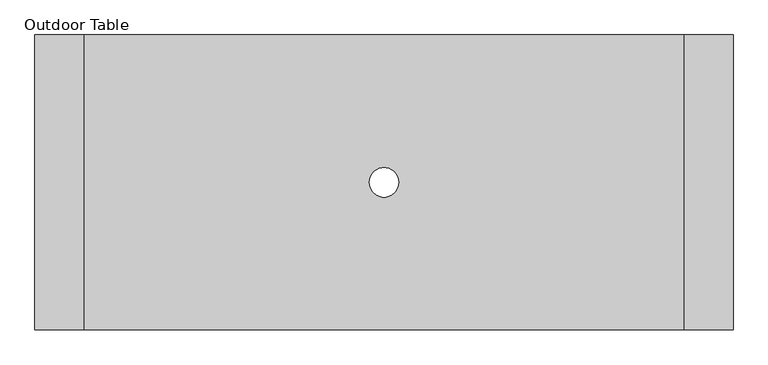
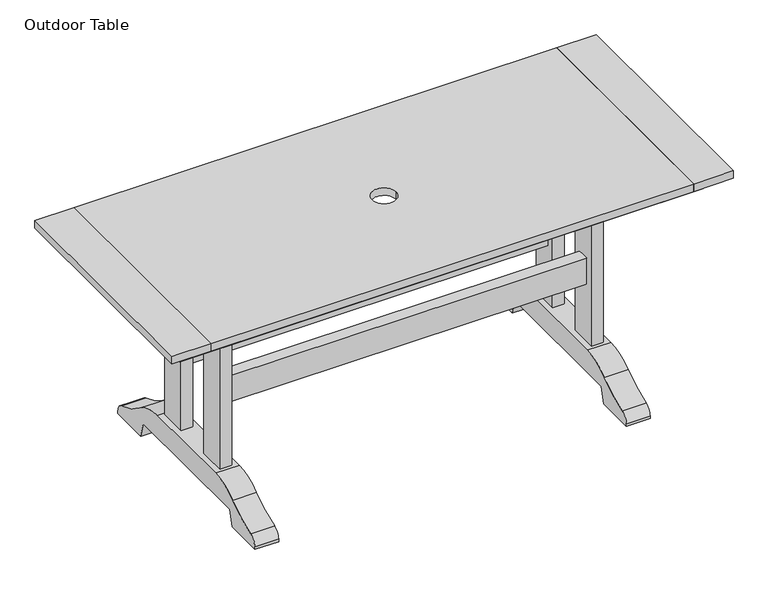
"""IFC4 building model written with IfcOpenShell, lengths in millimetres: furniture geometry."""

from ifc_helpers import new_model, si_unit, point, frame, frame_2d, origin, origin_2d, place, context, project, spatial, polyline, circle_curve, trimmed, segment, composite_curve, outline, extrude, source, transform, mapped, element, save


def outdoor_table_70c10171(model_context):
    return source(origin(), model_context, "Body", "SweptSolid", [
        extrude(outline(composite_curve([segment(polyline([(-381.0, 0.0), (-381.0, 9.0006443)]), True, "CONTINUOUS"), segment(trimmed(circle_curve(frame_2d((-349.25, 9.0006443)), 31.75), [point((-381.0, 9.0006443))], [point((-358.7294753, 39.3024932))], False, "CARTESIAN"), True, "CONTINUOUS"), segment(trimmed(circle_curve(frame_2d((-449.7324385, 330.2002428)), 304.8), [point((-358.7294753, 39.3024932))], [point((-258.1538415, 93.1334143))], True, "CARTESIAN"), True, "CONTINUOUS"), segment(trimmed(circle_curve(frame_2d((-162.3645431, -25.4)), 152.4), [point((-258.1538415, 93.1334143))], [point((-162.3645431, 127.0))], False, "CARTESIAN"), True, "CONTINUOUS"), segment(polyline([(-162.3645431, 127.0), (162.3645431, 127.0)]), True, "CONTINUOUS"), segment(trimmed(circle_curve(frame_2d((162.3645431, -25.4)), 152.4), [point((162.3645431, 127.0))], [point((258.1538415, 93.1334143))], False, "CARTESIAN"), True, "CONTINUOUS"), segment(trimmed(circle_curve(frame_2d((449.7324385, 330.2002428)), 304.8), [point((258.1538415, 93.1334143))], [point((358.7294753, 39.3024932))], True, "CARTESIAN"), True, "CONTINUOUS"), segment(trimmed(circle_curve(frame_2d((349.25, 9.0006443)), 31.75), [point((358.7294753, 39.3024932))], [point((381.0, 9.0006443))], False, "CARTESIAN"), True, "CONTINUOUS"), segment(polyline([(381.0, 9.0006443), (381.0, 0.0), (254.0, 0.0), (240.388181, 50.8), (-240.388181, 50.8), (-254.0, 0.0), (-381.0, 0.0)]), True, "CONTINUOUS")], self_intersect=False)), frame((558.8, 0.0, 0.0), z_axis=(1.0, 0.0, 0.0), x_axis=(0.0, 1.0, 0.0)), (0.0, 0.0, 1.0), 76.2),
        extrude(outline(polyline([(615.95, -63.5), (615.95, -152.4), (577.85, -152.4), (577.85, -63.5), (615.95, -63.5)])), frame((0.0, 0.0, 127.0), z_axis=(0.0, 0.0, 1.0), x_axis=(1.0, 0.0, 0.0)), (0.0, 0.0, 1.0), 596.9),
        extrude(outline(polyline([(615.95, 152.4), (615.95, 63.5), (577.85, 63.5), (577.85, 152.4), (615.95, 152.4)])), frame((0.0, 0.0, 127.0), z_axis=(0.0, 0.0, 1.0), x_axis=(1.0, 0.0, 0.0)), (0.0, 0.0, 1.0), 596.9),
        extrude(outline(composite_curve([segment(polyline([(-381.0, 0.0), (-381.0, 9.0006443)]), True, "CONTINUOUS"), segment(trimmed(circle_curve(frame_2d((-349.25, 9.0006443)), 31.75), [point((-381.0, 9.0006443))], [point((-358.7294753, 39.3024932))], False, "CARTESIAN"), True, "CONTINUOUS"), segment(trimmed(circle_curve(frame_2d((-449.7324385, 330.2002428)), 304.8), [point((-358.7294753, 39.3024932))], [point((-258.1538415, 93.1334143))], True, "CARTESIAN"), True, "CONTINUOUS"), segment(trimmed(circle_curve(frame_2d((-162.3645431, -25.4)), 152.4), [point((-258.1538415, 93.1334143))], [point((-162.3645431, 127.0))], False, "CARTESIAN"), True, "CONTINUOUS"), segment(polyline([(-162.3645431, 127.0), (162.3645431, 127.0)]), True, "CONTINUOUS"), segment(trimmed(circle_curve(frame_2d((162.3645431, -25.4)), 152.4), [point((162.3645431, 127.0))], [point((258.1538415, 93.1334143))], False, "CARTESIAN"), True, "CONTINUOUS"), segment(trimmed(circle_curve(frame_2d((449.7324385, 330.2002428)), 304.8), [point((258.1538415, 93.1334143))], [point((358.7294753, 39.3024932))], True, "CARTESIAN"), True, "CONTINUOUS"), segment(trimmed(circle_curve(frame_2d((349.25, 9.0006443)), 31.75), [point((358.7294753, 39.3024932))], [point((381.0, 9.0006443))], False, "CARTESIAN"), True, "CONTINUOUS"), segment(polyline([(381.0, 9.0006443), (381.0, 0.0), (254.0, 0.0), (240.388181, 50.8), (-240.388181, 50.8), (-254.0, 0.0), (-381.0, 0.0)]), True, "CONTINUOUS")], self_intersect=False)), frame((-635.0, 0.0, 0.0), z_axis=(1.0, 0.0, 0.0), x_axis=(0.0, 1.0, 0.0)), (0.0, 0.0, 1.0), 76.2),
        extrude(outline(polyline([(-577.85, -63.5), (-577.85, -152.4), (-615.95, -152.4), (-615.95, -63.5), (-577.85, -63.5)])), frame((0.0, 0.0, 127.0), z_axis=(0.0, 0.0, 1.0), x_axis=(1.0, 0.0, 0.0)), (0.0, 0.0, 1.0), 596.9),
        extrude(outline(polyline([(-577.85, 152.4), (-577.85, 63.5), (-615.95, 63.5), (-615.95, 152.4), (-577.85, 152.4)])), frame((0.0, 0.0, 127.0), z_axis=(0.0, 0.0, 1.0), x_axis=(1.0, 0.0, 0.0)), (0.0, 0.0, 1.0), 596.9),
        extrude(outline(polyline([(841.375, 320.675), (841.375, -320.675), (-841.375, -320.675), (-841.375, 320.675), (841.375, 320.675)]), holes=[polyline([(825.5, 304.8), (-825.5, 304.8), (-825.5, -304.8), (825.5, -304.8), (825.5, 304.8)])]), frame((0.0, 0.0, 673.1), z_axis=(0.0, 0.0, 1.0), x_axis=(1.0, 0.0, 0.0)), (0.0, 0.0, 1.0), 50.8),
        extrude(outline(polyline([(577.85, 127.0), (577.85, 88.9), (-577.85, 88.9), (-577.85, 127.0), (577.85, 127.0)])), frame((0.0, 0.0, 323.85), z_axis=(0.0, 0.0, 1.0), x_axis=(1.0, 0.0, 0.0)), (0.0, 0.0, 1.0), 88.9),
        extrude(outline(polyline([(577.85, -88.9), (577.85, -127.0), (-577.85, -127.0), (-577.85, -88.9), (577.85, -88.9)])), frame((0.0, 0.0, 323.85), z_axis=(0.0, 0.0, 1.0), x_axis=(1.0, 0.0, 0.0)), (0.0, 0.0, 1.0), 88.9),
        extrude(outline(polyline([(774.7, 381.0), (774.7, -381.0), (-774.7, -381.0), (-774.7, 381.0), (774.7, 381.0)]), holes=[composite_curve([segment(trimmed(circle_curve(origin_2d(), 38.1), [point((38.1, 0.0))], [point((-38.1, 0.0))], True, "CARTESIAN"), True, "CONTINUOUS"), segment(trimmed(circle_curve(origin_2d(), 38.1), [point((-38.1, 0.0))], [point((38.1, 0.0))], True, "CARTESIAN"), True, "CONTINUOUS")], self_intersect=False)]), frame((0.0, 0.0, 723.9), z_axis=(0.0, 0.0, 1.0), x_axis=(1.0, 0.0, 0.0)), (0.0, 0.0, 1.0), 25.4),
        extrude(outline(polyline([(-774.7, 381.0), (-774.7, -381.0), (-901.7, -381.0), (-901.7, 381.0), (-774.7, 381.0)])), frame((0.0, 0.0, 723.9), z_axis=(0.0, 0.0, 1.0), x_axis=(1.0, 0.0, 0.0)), (0.0, 0.0, 1.0), 25.4),
        extrude(outline(polyline([(901.7, 381.0), (901.7, -381.0), (774.7, -381.0), (774.7, 381.0), (901.7, 381.0)])), frame((0.0, 0.0, 723.9), z_axis=(0.0, 0.0, 1.0), x_axis=(1.0, 0.0, 0.0)), (0.0, 0.0, 1.0), 25.4),
    ])


if __name__ == "__main__":
    model = new_model("IFC4")
    model_context = context("Model", 3, world=origin())
    ifc_project = project(units=[si_unit("LENGTHUNIT", "METRE", prefix="MILLI")], contexts=[model_context])
    site = spatial("IfcSite", under=ifc_project)
    building = spatial("IfcBuilding", under=site)
    placement = place(None, origin())
    outdoor_table_shape = outdoor_table_70c10171(model_context)
    element("IfcFurniture", 1, ObjectType="Outdoor Table : 5'-11\"L x 2'-6\"W", at=placement, inside=building, context=model_context, shape_type="MappedRepresentation", body=[
        mapped(outdoor_table_shape, transform((0.0, 0.0, 0.0), x_axis=(1.0, 0.0, 0.0), y_axis=(0.0, 1.0, 0.0), z_axis=(0.0, 0.0, 1.0))),
    ])
    save(model, "model.ifc")
